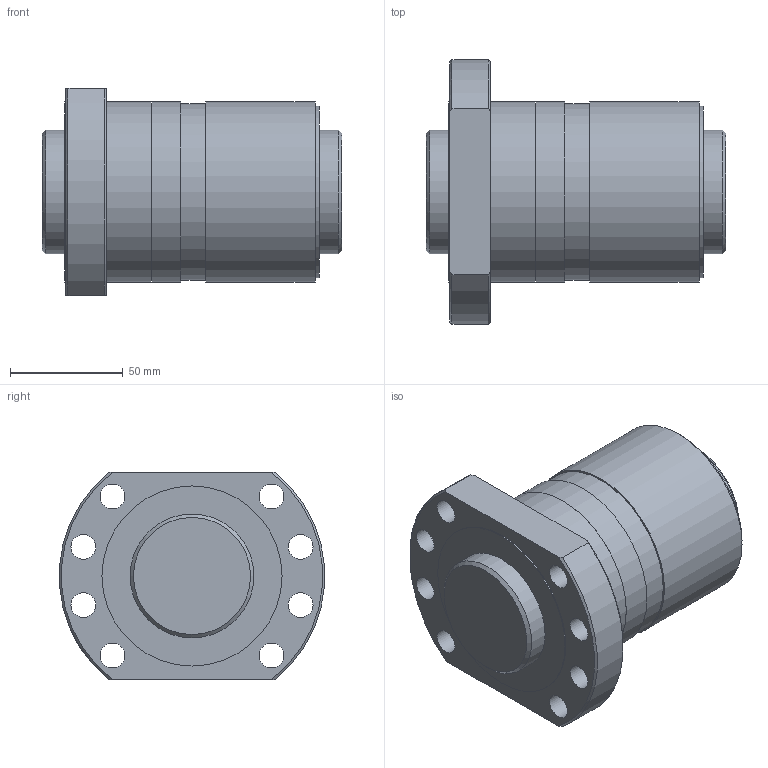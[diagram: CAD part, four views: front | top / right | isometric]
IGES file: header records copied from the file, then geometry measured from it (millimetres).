
Start section: Data from Parasolid IGES Translator 26.0.171, Copyright(c) 2006 Siemens PLM Software. All Rights Reserved.
Global section: file name: SDAN5510VX-4G0+133LC0(0G000).igs; native system: By Siemens PLM Incorporated; preprocessor: XPlus GENERIC/IGES 26.0.171; author: Noname; organization: Noname; date: 20240704.102120; units: millimetre
Bounding box: 133 x 117.61 x 92 mm (x, y, z)
Surface area: 96440.5 mm2 (no closed solid volume)
Topology: 0 solids, 0 shells, 41 faces, 198 edges, 177 vertices
Faces by surface type: revolution 28, extrusion 13
